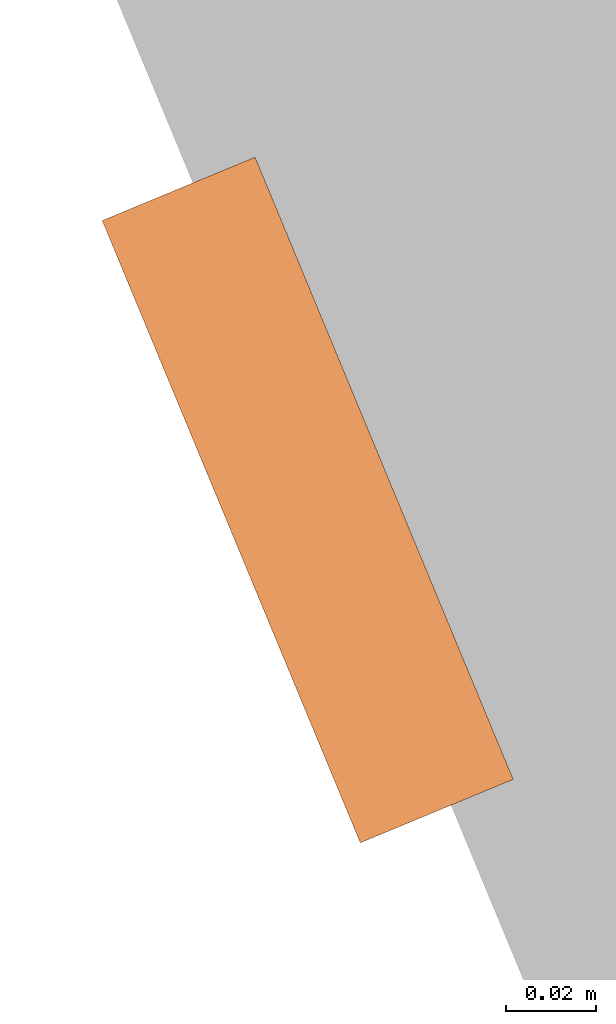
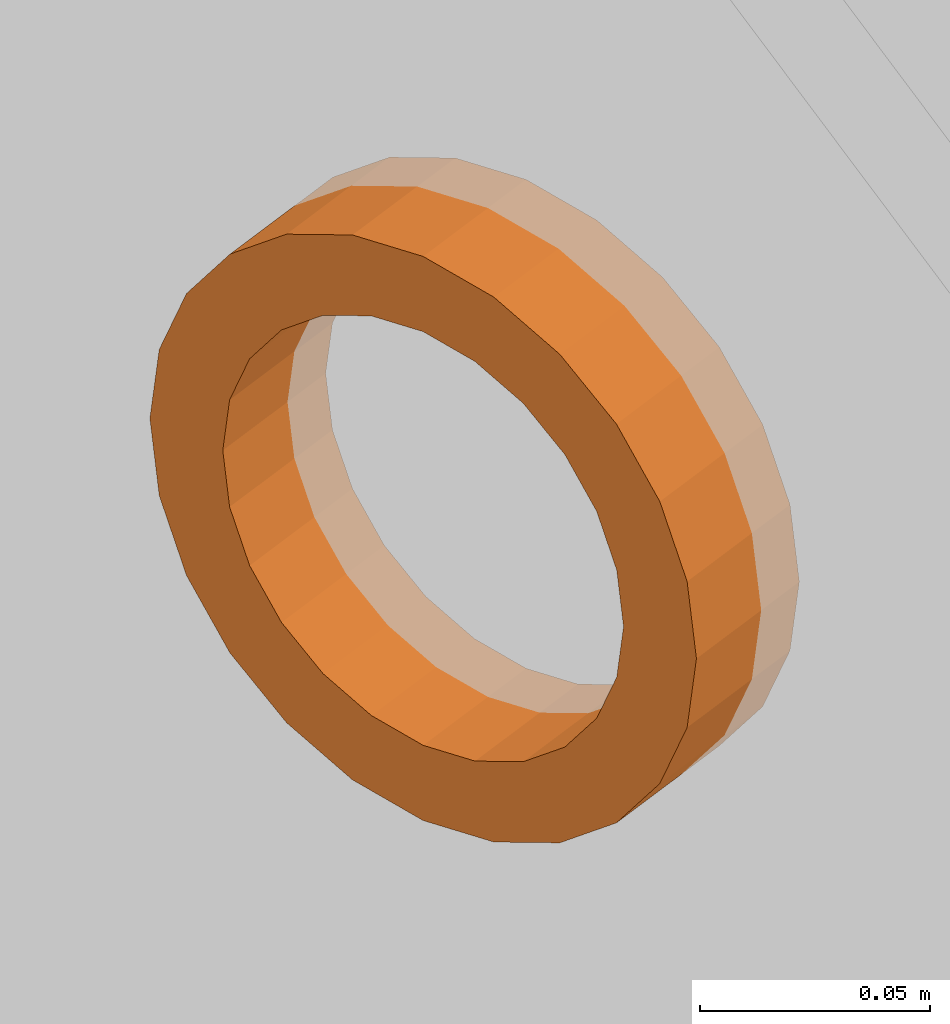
# One storey, part 87 of 91: 1 proxy.
"""IFC2X3 building model written with IfcOpenShell, lengths in metres."""

import ifcopenshell
import ifcopenshell.guid

model = None  # the IFC model being written
_history = None  # IfcOwnerHistory: only IFC2X3 demands one
_inside = {}  # id of a spatial element -> (the spatial element, [elements in it])
_under = {}  # id of a project, library or spatial element -> (it, [spatial elements below it])
_declared = {}  # id of a project -> (the project, [libraries it declares])
_typed = {}  # id of a type object -> (the type object, [elements of that type])
_made_of = {}  # id of a material, layer set ... -> (it, [elements and type objects made of it])


def new_model(schema):
    """Start an empty IFC model of exactly this schema.

    Asked for "IFC4X3", IfcOpenShell would pick the latest addendum, in which some entities
    have other attributes; the version numbers below select the first issue.
    IFC2X3 requires an IfcOwnerHistory on every rooted entity: one is made here for all.
    """
    global model, _history
    if schema == "IFC4X3":
        model = ifcopenshell.file(schema_version=(4, 3, 0, 0))
    else:
        model = ifcopenshell.file(schema=schema)
    _inside.clear()
    _under.clear()
    _declared.clear()
    _typed.clear()
    _made_of.clear()
    _history = None
    if model.schema == "IFC2X3":
        org = make("IfcOrganization", Name="unknown")
        user = make(
            "IfcPersonAndOrganization",
            ThePerson=make("IfcPerson", FamilyName="unknown"),
            TheOrganization=org,
        )
        app = make(
            "IfcApplication",
            ApplicationDeveloper=org,
            Version="unknown",
            ApplicationFullName="unknown",
            ApplicationIdentifier="unknown",
        )
        _history = make(
            "IfcOwnerHistory",
            OwningUser=user,
            OwningApplication=app,
            ChangeAction="ADDED",
            CreationDate=0,
        )
    return model


def make(cls, **values):
    """One entity of the class cls with the attributes given. An attribute that is None is left unset."""
    return model.create_entity(
        cls, **{name: value for name, value in values.items() if value is not None}
    )


def entity(cls, *values):
    """Any entity or typed value of the class cls, its attributes in the order of the schema. None: left unset."""
    e = model.create_entity(cls)
    for i, value in enumerate(values):
        if value is not None:
            e[i] = value
    return e


def rooted(cls, **values):
    """An entity with a GlobalId (a new one), such as an element, a storey or a relation."""
    return make(cls, GlobalId=ifcopenshell.guid.new(), OwnerHistory=_history, **values)


def si_unit(unit_type, name, prefix=None):
    """IfcSIUnit, for example si_unit("LENGTHUNIT", "METRE", prefix="MILLI")."""
    return make("IfcSIUnit", UnitType=unit_type, Prefix=prefix, Name=name)


def converted_unit(unit_type, name, factor, base, dimensions=None, offset=None):
    """IfcConversionBasedUnit, such as the inch: factor (a typed value) times the base unit."""
    return make(
        "IfcConversionBasedUnit"
        if offset is None
        else "IfcConversionBasedUnitWithOffset",
        ConversionOffset=offset,
        Dimensions=None
        if dimensions is None
        else entity("IfcDimensionalExponents", *dimensions),
        UnitType=unit_type,
        Name=name,
        ConversionFactor=make(
            "IfcMeasureWithUnit", ValueComponent=factor, UnitComponent=base
        ),
    )


def derived_unit(unit_type, elements):
    """IfcDerivedUnit: a product of units, each with its exponent."""
    return make(
        "IfcDerivedUnit",
        Elements=[
            make("IfcDerivedUnitElement", Unit=unit, Exponent=power)
            for unit, power in elements
        ],
        UnitType=unit_type,
    )


def money_unit(currency):
    """IfcMonetaryUnit."""
    return make("IfcMonetaryUnit", Currency=currency)


def assignment(units):
    """IfcUnitAssignment: the units of a project."""
    return None if units is None else make("IfcUnitAssignment", Units=units)


def point(xyz):
    """IfcCartesianPoint."""
    return None if xyz is None else make("IfcCartesianPoint", Coordinates=xyz)


def direction(xyz):
    """IfcDirection."""
    return None if xyz is None else make("IfcDirection", DirectionRatios=xyz)


def frame(location, z_axis=None, x_axis=None):
    """IfcAxis2Placement3D, a coordinate frame: its origin and axes. An axis left out is left unset."""
    return make(
        "IfcAxis2Placement3D",
        Location=point(location),
        Axis=direction(z_axis),
        RefDirection=direction(x_axis),
    )


def origin_with_axes():
    """The frame at (0, 0, 0) with the z axis (0, 0, 1) and the x axis (1, 0, 0) written out."""
    return frame((0.0, 0.0, 0.0), z_axis=(0.0, 0.0, 1.0), x_axis=(1.0, 0.0, 0.0))


def place(relative_to, where):
    """IfcLocalPlacement: puts the frame where relative to a parent placement (None: the world)."""
    return make(
        "IfcLocalPlacement", PlacementRelTo=relative_to, RelativePlacement=where
    )


def context(
    kind, dimensions, precision=None, world=None, true_north=None, identifier=None
):
    """IfcGeometricRepresentationContext, for example the 3D "Model" context."""
    return make(
        "IfcGeometricRepresentationContext",
        ContextIdentifier=identifier,
        ContextType=kind,
        CoordinateSpaceDimension=dimensions,
        Precision=precision,
        WorldCoordinateSystem=world,
        TrueNorth=true_north,
    )


def subcontext(parent, identifier, kind, view, scale=None):
    """IfcGeometricRepresentationSubContext, for example "Body" below "Model"."""
    return make(
        "IfcGeometricRepresentationSubContext",
        ContextIdentifier=identifier,
        ContextType=kind,
        ParentContext=parent,
        TargetScale=scale,
        TargetView=view,
    )


def project(units=None, contexts=None):
    """IfcProject with its units and contexts."""
    return rooted(
        "IfcProject",
        Name="project",
        RepresentationContexts=contexts,
        UnitsInContext=assignment(units),
    )


def spatial(cls, under=None, at=None, **own):
    """A site, building, storey or space (cls), placed at a placement, below another one or the project."""
    s = rooted(cls, ObjectPlacement=at, **own)
    if under is not None:
        _under.setdefault(under.id(), (under, []))[1].append(s)
    return s


def faces_of(points, faces, orient=None, outer=None):
    """IfcFace entities. A face is a list of loops; a loop is a list of indices into points, from 0.

    orient and outer hold one flag for each loop. By default every Orientation is true, the
    first loop of a face is its IfcFaceOuterBound and the others are IfcFaceBound.
    """
    made = []
    for i, loops in enumerate(faces):
        bounds = []
        for j, loop in enumerate(loops):
            is_outer = j == 0 if outer is None else outer[i][j]
            bounds.append(
                make(
                    "IfcFaceOuterBound" if is_outer else "IfcFaceBound",
                    Bound=make("IfcPolyLoop", Polygon=[points[k] for k in loop]),
                    Orientation=True if orient is None else orient[i][j],
                )
            )
        made.append(make("IfcFace", Bounds=bounds))
    return made


def faceted_brep(points, faces, orient=None, outer=None, voids=None):
    """IfcFacetedBrep: a solid bounded by flat faces; with voids (closed shells), ...WithVoids."""
    shared = [point(p) for p in points]
    hull = make("IfcClosedShell", CfsFaces=faces_of(shared, faces, orient, outer))
    if voids is None:
        return make("IfcFacetedBrep", Outer=hull)
    return make(
        "IfcFacetedBrepWithVoids",
        Outer=hull,
        Voids=[
            make(cls, CfsFaces=faces_of(shared, fs, o, b)) for cls, fs, o, b in voids
        ],
    )


def shape(context_of_items, identifier, shape_type, items):
    """IfcShapeRepresentation: the items that make up one representation, for example the "Body"."""
    return make(
        "IfcShapeRepresentation",
        ContextOfItems=context_of_items,
        RepresentationIdentifier=identifier,
        RepresentationType=shape_type,
        Items=items,
    )


def source(mapping_origin, context_of_items, identifier, shape_type, items):
    """IfcRepresentationMap: a shape defined once, which mapped items show again and again."""
    return make(
        "IfcRepresentationMap",
        MappingOrigin=mapping_origin,
        MappedRepresentation=shape(context_of_items, identifier, shape_type, items),
    )


def transform(
    local_origin,
    x_axis=None,
    y_axis=None,
    z_axis=None,
    scale=None,
    scale2=None,
    scale3=None,
    uniform=True,
):
    """IfcCartesianTransformationOperator3D, or its non-uniform kind. x_axis, y_axis, z_axis: its Axis1, 2, 3."""
    if uniform:
        return make(
            "IfcCartesianTransformationOperator3D",
            Axis1=direction(x_axis),
            Axis2=direction(y_axis),
            LocalOrigin=point(local_origin),
            Scale=scale,
            Axis3=direction(z_axis),
        )
    return make(
        "IfcCartesianTransformationOperator3DnonUniform",
        Axis1=direction(x_axis),
        Axis2=direction(y_axis),
        LocalOrigin=point(local_origin),
        Scale=scale,
        Axis3=direction(z_axis),
        Scale2=scale2,
        Scale3=scale3,
    )


def mapped(mapping_source, mapping_target):
    """IfcMappedItem: shows the shape of a source again, moved by a transform."""
    return make(
        "IfcMappedItem", MappingSource=mapping_source, MappingTarget=mapping_target
    )


def made_of(thing, what):
    """Note that an element or type object is made of a material, layer set ...; save() writes the relation."""
    if what is not None:
        _made_of.setdefault(what.id(), (what, []))[1].append(thing)
    return thing


def type_object(cls, material=None, **own):
    """A type object (cls), such as IfcWallType, which elements share."""
    return made_of(rooted(cls, **own), material)


def element(
    cls,
    number,
    at=None,
    inside=None,
    cuts=None,
    type_object=None,
    material=None,
    context=None,
    identifier="Body",
    shape_type=None,
    held_by="IfcProductDefinitionShape",
    body=None,
    shapes=None,
    **own,
):
    """One element of the class cls, such as IfcWall. Its Tag is "e" and its number.

    at: its placement. inside: the storey or other place that contains it. cuts: it is an
    opening in that element (IfcRelVoidsElement). A single representation is given by context,
    identifier, shape_type and body (its items); several are given by shapes. held_by: the class
    of the entity that holds the representations. save() writes the other relations.
    """
    e = rooted(cls, Tag="e%d" % number, ObjectPlacement=at, **own)
    if body is not None:
        shapes = [shape(context, identifier, shape_type, body)]
    if shapes is not None:
        e.Representation = make(held_by, Representations=shapes)
    if inside is not None:
        _inside.setdefault(inside.id(), (inside, []))[1].append(e)
    if cuts is not None:
        rooted(
            "IfcRelVoidsElement", RelatingBuildingElement=cuts, RelatedOpeningElement=e
        )
    if type_object is not None:
        _typed.setdefault(type_object.id(), (type_object, []))[1].append(e)
    return made_of(e, material)


def aggregate(whole, parts):
    """IfcRelAggregates: a whole, such as a stair, and the parts it consists of."""
    return rooted("IfcRelAggregates", RelatingObject=whole, RelatedObjects=parts)


def save(model, path):
    """Write the relations noted so far, then the file.

    IfcRelAggregates (storeys below a building ...), IfcRelContainedInSpatialStructure (elements
    in a storey), IfcRelDefinesByType, IfcRelAssociatesMaterial and IfcRelDeclares: one each for
    every whole, place, type object, material and project.
    """
    for whole, parts in _under.values():
        aggregate(whole, parts)
    for where, things in _inside.values():
        rooted(
            "IfcRelContainedInSpatialStructure",
            RelatedElements=things,
            RelatingStructure=where,
        )
    for kind, things in _typed.values():
        rooted("IfcRelDefinesByType", RelatedObjects=things, RelatingType=kind)
    for what, things in _made_of.values():
        rooted("IfcRelAssociatesMaterial", RelatedObjects=things, RelatingMaterial=what)
    for by, libraries in _declared.values():
        rooted("IfcRelDeclares", RelatingContext=by, RelatedDefinitions=libraries)
    model.write(path)


model = new_model("IFC2X3")

# Units and contexts
model_context = context("Model", 3, precision=1e-05, world=origin_with_axes(), true_north=direction((0.0, 1.0)))
body_context = subcontext(model_context, "Body", "Model", "MODEL_VIEW")
ifc_project = project(units=[si_unit("LENGTHUNIT", "METRE"), si_unit("AREAUNIT", "SQUARE_METRE"), si_unit("VOLUMEUNIT", "CUBIC_METRE"), converted_unit("PLANEANGLEUNIT", "DEGREE", entity("IfcPlaneAngleMeasure", 0.0174532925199), si_unit("PLANEANGLEUNIT", "RADIAN"), dimensions=[0, 0, 0, 0, 0, 0, 0]), si_unit("SOLIDANGLEUNIT", "STERADIAN"), money_unit("EUR"), converted_unit("TIMEUNIT", "Year", entity("IfcTimeMeasure", 31556926.0), si_unit("TIMEUNIT", "SECOND"), dimensions=[0, 0, 1, 0, 0, 0, 0]), si_unit("MASSUNIT", "GRAM", prefix="KILO"), si_unit("THERMODYNAMICTEMPERATUREUNIT", "DEGREE_CELSIUS"), si_unit("LUMINOUSINTENSITYUNIT", "LUMEN"), si_unit("ENERGYUNIT", "JOULE", prefix="MEGA"), derived_unit("THERMALCONDUCTANCEUNIT", [(si_unit("POWERUNIT", "WATT"), 1), (si_unit("LENGTHUNIT", "METRE"), -1), (si_unit("THERMODYNAMICTEMPERATUREUNIT", "KELVIN"), -1)]), derived_unit("SPECIFICHEATCAPACITYUNIT", [(si_unit("ENERGYUNIT", "JOULE"), 1), (si_unit("MASSUNIT", "GRAM", prefix="KILO"), -1), (si_unit("THERMODYNAMICTEMPERATUREUNIT", "KELVIN"), -1)]), derived_unit("MASSDENSITYUNIT", [(si_unit("MASSUNIT", "GRAM", prefix="KILO"), 1), (si_unit("VOLUMEUNIT", "CUBIC_METRE"), -1)])], contexts=[model_context])

# Site, building, storey
site_placement = place(None, origin_with_axes())
site = spatial("IfcSite", under=ifc_project, at=site_placement, Name="Site", CompositionType="ELEMENT")
building_placement = place(site_placement, origin_with_axes())
building = spatial("IfcBuilding", under=site, at=building_placement, Name="Bâtiment", CompositionType="ELEMENT")
storey_placement = place(building_placement, frame((0.0, 0.0, 5.44), z_axis=(0.0, 0.0, 1.0), x_axis=(1.0, 0.0, 0.0)))
storey = spatial("IfcBuildingStorey", under=building, at=storey_placement, Name="R+2", CompositionType="ELEMENT", Elevation=5.44)

# Proxy
building_element_proxy_type = type_object("IfcBuildingElementProxyType", Name="Tube évidé 23", PredefinedType="NOTDEFINED")
shared_shape = source(origin_with_axes(), body_context, "Body", "Brep", [
    faceted_brep([(0.0, 0.0, -0.075), (0.0, 0.0194114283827, -0.0724444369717), (0.0, 0.0375, -0.0649519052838), (0.0, 0.053033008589, -0.053033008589), (0.0, 0.0649519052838, -0.0375), (0.0, 0.0724444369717, -0.0194114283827), (0.0, 0.075, 0.0), (0.0, 0.0724444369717, 0.0194114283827), (0.0, 0.0649519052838, 0.0375), (0.0, 0.053033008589, 0.053033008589), (0.0, 0.0375, 0.0649519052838), (0.0, 0.0194114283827, 0.0724444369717), (0.0, 0.0, 0.075), (0.0, -0.0194114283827, 0.0724444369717), (0.0, -0.0375, 0.0649519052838), (0.0, -0.053033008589, 0.053033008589), (0.0, -0.0649519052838, 0.0375), (0.0, -0.0724444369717, 0.0194114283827), (0.0, -0.075, 0.0), (0.0, -0.0724444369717, -0.0194114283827), (0.0, -0.0649519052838, -0.0375), (0.0, -0.053033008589, -0.053033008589), (0.0, -0.0375, -0.0649519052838), (0.0, -0.0194114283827, -0.0724444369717), (0.0, -0.0275, -0.0476313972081), (0.0, -0.0388908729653, -0.0388908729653), (0.0, -0.0476313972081, -0.0275), (0.0, -0.0531259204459, -0.0142350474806), (0.0, -0.055, 0.0), (0.0, -0.0531259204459, 0.0142350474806), (0.0, -0.0476313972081, 0.0275), (0.0, -0.0388908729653, 0.0388908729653), (0.0, -0.0275, 0.0476313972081), (0.0, -0.0142350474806, 0.0531259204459), (0.0, 0.0, 0.055), (0.0, 0.0142350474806, 0.0531259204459), (0.0, 0.0275, 0.0476313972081), (0.0, 0.0388908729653, 0.0388908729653), (0.0, 0.0476313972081, 0.0275), (0.0, 0.0531259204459, 0.0142350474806), (0.0, 0.055, 0.0), (0.0, 0.0531259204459, -0.0142350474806), (0.0, 0.0476313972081, -0.0275), (0.0, 0.0388908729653, -0.0388908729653), (0.0, 0.0275, -0.0476313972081), (0.0, 0.0142350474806, -0.0531259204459), (0.0, 0.0, -0.055), (0.0, -0.0142350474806, -0.0531259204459), (-0.0368596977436, 0.0, -0.075), (-0.0368596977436, 0.0194114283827, -0.0724444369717), (-0.0368596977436, 0.0375, -0.0649519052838), (-0.0368596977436, 0.053033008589, -0.053033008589), (-0.0368596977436, 0.0649519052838, -0.0375), (-0.0368596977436, 0.0724444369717, -0.0194114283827), (-0.0368596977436, 0.075, 0.0), (-0.0368596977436, 0.0724444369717, 0.0194114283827), (-0.0368596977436, 0.0649519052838, 0.0375), (-0.0368596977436, 0.053033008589, 0.053033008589), (-0.0368596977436, 0.0375, 0.0649519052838), (-0.0368596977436, 0.0194114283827, 0.0724444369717), (-0.0368596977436, 0.0, 0.075), (-0.0368596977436, -0.0194114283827, 0.0724444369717), (-0.0368596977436, -0.0375, 0.0649519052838), (-0.0368596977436, -0.053033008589, 0.053033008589), (-0.0368596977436, -0.0649519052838, 0.0375), (-0.0368596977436, -0.0724444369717, 0.0194114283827), (-0.0368596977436, -0.075, 0.0), (-0.0368596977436, -0.0724444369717, -0.0194114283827), (-0.0368596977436, -0.0649519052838, -0.0375), (-0.0368596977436, -0.053033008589, -0.053033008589), (-0.0368596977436, -0.0375, -0.0649519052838), (-0.0368596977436, -0.0194114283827, -0.0724444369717), (-0.0368596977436, -0.0388908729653, -0.0388908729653), (-0.0368596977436, -0.0275, -0.0476313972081), (-0.0368596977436, -0.0476313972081, -0.0275), (-0.0368596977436, -0.0531259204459, -0.0142350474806), (-0.0368596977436, -0.055, 0.0), (-0.0368596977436, -0.0531259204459, 0.0142350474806), (-0.0368596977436, -0.0476313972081, 0.0275), (-0.0368596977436, -0.0388908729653, 0.0388908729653), (-0.0368596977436, -0.0275, 0.0476313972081), (-0.0368596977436, -0.0142350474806, 0.0531259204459), (-0.0368596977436, 0.0, 0.055), (-0.0368596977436, 0.0142350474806, 0.0531259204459), (-0.0368596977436, 0.0275, 0.0476313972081), (-0.0368596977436, 0.0388908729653, 0.0388908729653), (-0.0368596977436, 0.0476313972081, 0.0275), (-0.0368596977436, 0.0531259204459, 0.0142350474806), (-0.0368596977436, 0.055, 0.0), (-0.0368596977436, 0.0531259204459, -0.0142350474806), (-0.0368596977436, 0.0476313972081, -0.0275), (-0.0368596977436, 0.0388908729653, -0.0388908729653), (-0.0368596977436, 0.0275, -0.0476313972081), (-0.0368596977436, 0.0142350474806, -0.0531259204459), (-0.0368596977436, 0.0, -0.055), (-0.0368596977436, -0.0142350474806, -0.0531259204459)], [[[0, 1, 2, 3, 4, 5, 6, 7, 8, 9, 10, 11, 12, 13, 14, 15, 16, 17, 18, 19, 20, 21, 22, 23], [24, 25, 26, 27, 28, 29, 30, 31, 32, 33, 34, 35, 36, 37, 38, 39, 40, 41, 42, 43, 44, 45, 46, 47]], [[48, 49, 1, 0]], [[49, 50, 2, 1]], [[50, 51, 3, 2]], [[51, 52, 4, 3]], [[52, 53, 5, 4]], [[53, 54, 6, 5]], [[54, 55, 7, 6]], [[55, 56, 8, 7]], [[56, 57, 9, 8]], [[57, 58, 10, 9]], [[58, 59, 11, 10]], [[59, 60, 12, 11]], [[60, 61, 13, 12]], [[61, 62, 14, 13]], [[62, 63, 15, 14]], [[63, 64, 16, 15]], [[64, 65, 17, 16]], [[65, 66, 18, 17]], [[66, 67, 19, 18]], [[67, 68, 20, 19]], [[68, 69, 21, 20]], [[69, 70, 22, 21]], [[70, 71, 23, 22]], [[71, 48, 0, 23]], [[72, 25, 24, 73]], [[74, 26, 25, 72]], [[75, 27, 26, 74]], [[76, 28, 27, 75]], [[77, 29, 28, 76]], [[78, 30, 29, 77]], [[79, 31, 30, 78]], [[80, 32, 31, 79]], [[81, 33, 32, 80]], [[82, 34, 33, 81]], [[83, 35, 34, 82]], [[84, 36, 35, 83]], [[85, 37, 36, 84]], [[86, 38, 37, 85]], [[87, 39, 38, 86]], [[88, 40, 39, 87]], [[89, 41, 40, 88]], [[90, 42, 41, 89]], [[91, 43, 42, 90]], [[92, 44, 43, 91]], [[93, 45, 44, 92]], [[94, 46, 45, 93]], [[95, 47, 46, 94]], [[73, 24, 47, 95]], [[70, 69, 68, 67, 66, 65, 64, 63, 62, 61, 60, 59, 58, 57, 56, 55, 54, 53, 52, 51, 50, 49, 48, 71], [92, 91, 90, 89, 88, 87, 86, 85, 84, 83, 82, 81, 80, 79, 78, 77, 76, 75, 74, 72, 73, 95, 94, 93]]]),
])
proxy_placement = place(storey_placement, frame((-20.9092441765, -26.4728226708, 2.35), z_axis=(0.0, 0.0, 1.0), x_axis=(-0.923701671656, -0.383112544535, 0.0)))
element("IfcBuildingElementProxy", 1, at=proxy_placement, inside=storey, type_object=building_element_proxy_type, Name="MOB-003", context=body_context, shape_type="MappedRepresentation", body=[
    mapped(shared_shape, transform((0.0, 0.0, 0.0))),
])

save(model, "model.ifc")
